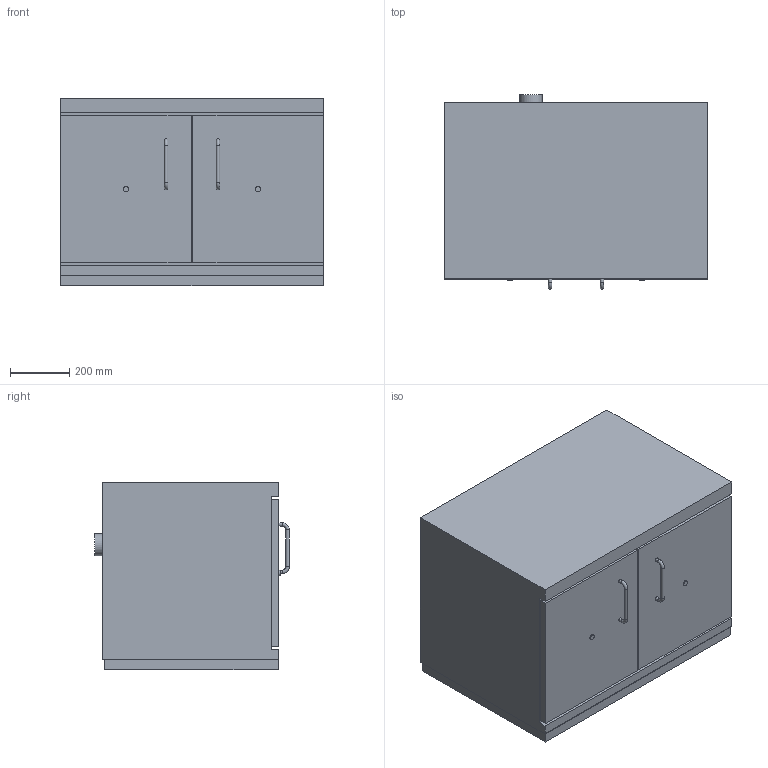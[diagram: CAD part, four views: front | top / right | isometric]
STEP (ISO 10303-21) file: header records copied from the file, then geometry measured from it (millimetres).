
FILE_DESCRIPTION(/* description */ ('Unknown'),/* implementation_level */ '2;1');
FILE_NAME(/* name */ '29-060967_VDK',/* time_stamp */ '2019-04-10T11:57:12+02:00',/* author */ ('Unknown'),/* organization */ ('Unknown'),/* preprocessor_version */ 'ST-DEVELOPER v16.7',/* originating_system */ 'DEX',/* authorisation */ $);
FILE_SCHEMA (('AUTOMOTIVE_DESIGN {1 0 10303 214 3 1 1}'));
Length unit declared in the file: millimetre
Products named in the file (1): 29-060967_VDK
Bounding box: 888.5 x 656 x 631 mm (x, y, z)
Volume: 331967935 mm3; surface area: 3066001.6 mm2
Topology: 1 solids, 1 shells, 43 faces, 101 edges, 67 vertices
Faces by surface type: plane 29, cylinder 10, torus 4
Full cylindrical faces by diameter (mm): 12 x6, 18 x2, 75 x2
Entity records: 1429 total; most frequent: DIRECTION 188, CARTESIAN_POINT 184, ORIENTED_EDGE 160, EDGE_CURVE 80, EDGE_LOOP 68, FACE_BOUND 68, AXIS2_PLACEMENT_3D 64, LINE 60
